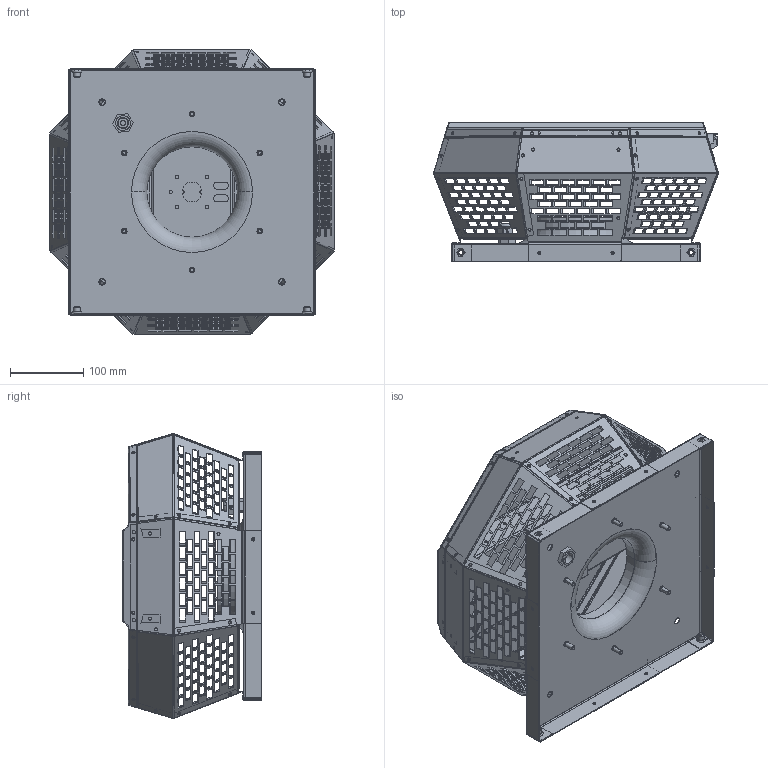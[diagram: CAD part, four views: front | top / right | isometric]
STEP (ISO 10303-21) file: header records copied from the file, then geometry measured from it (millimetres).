
FILE_DESCRIPTION (( 'STEP AP203' ), '1' );
FILE_NAME ('165191_00_DHA190ECOR01_step.step', '2022-10-14T11:25:58', ( '' ), ( '' ), 'SwSTEP 2.0', 'SolidWorks 2021', '' );
FILE_SCHEMA (( 'CONFIG_CONTROL_DESIGN' ));
Products named in the file (1): 165191_00_DHA190ECOR01_step
Bounding box: 388.18 x 190.23 x 388.18 mm (x, y, z)
Surface area: 999470.2 mm2 (no closed solid volume)
Topology: 0 solids, 49 shells, 2211 faces, 7480 edges, 5078 vertices
Faces by surface type: plane 1568, cylinder 511, torus 53, bspline 48, cone 31
Entity records: 82580 total; most frequent: CARTESIAN_POINT 16792, ORIENTED_EDGE 12727, DIRECTION 12681, EDGE_CURVE 7480, VECTOR 5953, LINE 5953, VERTEX_POINT 5078, AXIS2_PLACEMENT_3D 3364
